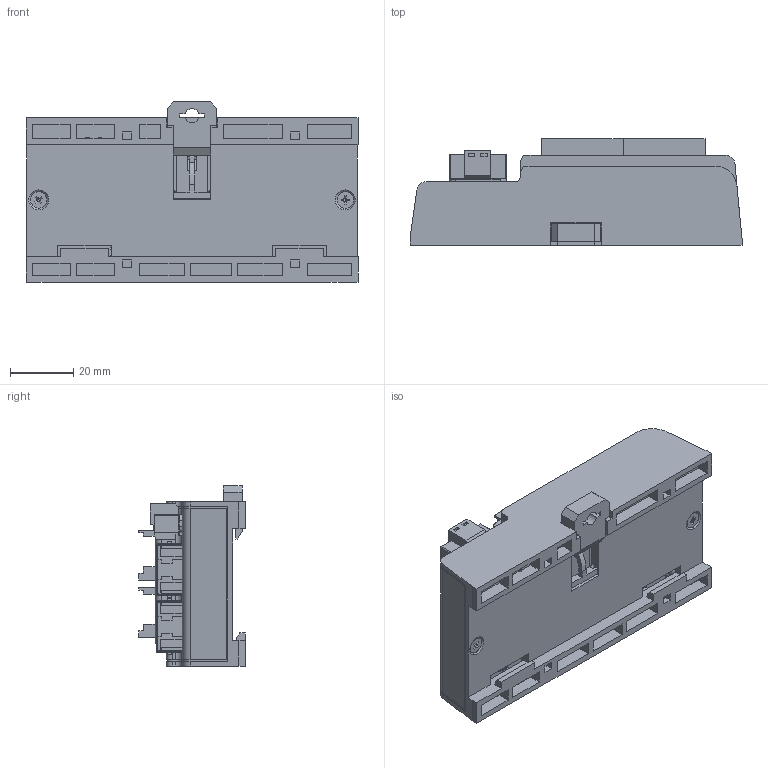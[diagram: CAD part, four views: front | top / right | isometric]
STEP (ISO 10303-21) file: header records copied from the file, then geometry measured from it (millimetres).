
FILE_DESCRIPTION (( 'STEP AP203' ), '1' );
FILE_NAME ('P1U-DR-000-02-R00.STEP', '2019-09-19T01:41:12', ( '' ), ( '' ), 'SwSTEP 2.0', 'SolidWorks 2013', '' );
FILE_SCHEMA (( 'CONFIG_CONTROL_DESIGN' ));
Length unit declared in the file: millimetre
Products named in the file (24): MC421-38102; 瞪錳薄樓醴喀攪-3; P1U-DR-000-02-R00; cheese slotted head_ks_KS 1021 CS - M2.5 x 5-N; 瞪錳薄樓醴喀攪-4; cheese slotted head_ks_KS 1021 CS - M1.6 x 3-N; 瞪錳薄樓醴喀攪-5; M118-DR-000-01-R00; 瞪錳蕾樓攪喀攪; M118-DR-000-03-R00; M1U-DR-000-03-R00; XN2D-4471; EtherCAT IO PCB1-02-1; _SA-7070A_body; pan cross head_ks_KS 1023 PC- M2.6 x 6-N; EtherCAT IO PCB2-02-1; _Without knob (Minus slot); countersunk flat cross head screw_ks_KS 1023 FC- M2.6 x 6-N; 瞪錳薄樓醴喀攪-1; SA-7070TA; 3017615508; 瞪錳薄樓醴喀攪-2; 衛お
Assembly tree (34 placements, depth 3):
  P1U-DR-000-02-R00
    M118-DR-000-01-R00
    M118-DR-000-03-R00
    EtherCAT IO PCB1-02-1
    EtherCAT IO PCB2-02-1
    瞪錳蕾樓攪喀攪
      瞪錳薄樓醴喀攪-1
      瞪錳薄樓醴喀攪-2
      瞪錳薄樓醴喀攪-3
      瞪錳薄樓醴喀攪-4
      瞪錳薄樓醴喀攪-5
    XN2D-4471  x4
    pan cross head_ks_KS 1023 PC- M2.6 x 6-N  x4
    countersunk flat cross head screw_ks_KS 1023 FC- M2.6 x 6-N  x2
    3017615508  x2
    MC421-38102
      MC421-38102
      cheese slotted head_ks_KS 1021 CS - M2.5 x 5-N  x2
      cheese slotted head_ks_KS 1021 CS - M1.6 x 3-N  x2
    M1U-DR-000-03-R00
    SA-7070TA  x2
      _SA-7070A_body
      _Without knob (Minus slot)
    衛お
Bounding box: 105 x 33.7 x 57 mm (x, y, z)
Volume: 65048.5 mm3; surface area: 72961.1 mm2
Topology: 32 solids, 32 shells, 4855 faces, 13971 edges, 9203 vertices
Faces by surface type: plane 4001, cylinder 692, cone 80, bspline 46, torus 20, sphere 16
Entity records: 94712 total; most frequent: CARTESIAN_POINT 19435, ORIENTED_EDGE 15900, DIRECTION 13741, EDGE_CURVE 7950, LINE 6753, VECTOR 6753, VERTEX_POINT 5248, AXIS2_PLACEMENT_3D 3494
